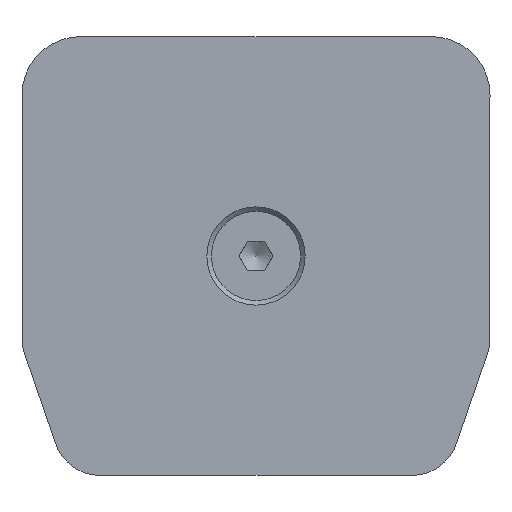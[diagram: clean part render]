
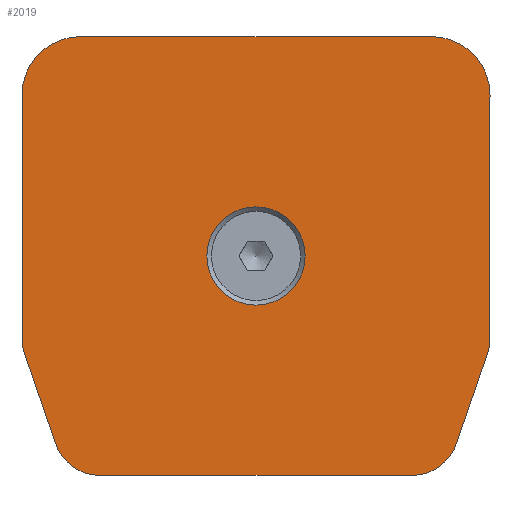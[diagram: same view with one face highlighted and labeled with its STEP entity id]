
A CAD part, top view. The second image highlights one B-rep face of the part: STEP entity #2019.
In plain terms, the highlighted planar face has unit normal (0, 0, 1).
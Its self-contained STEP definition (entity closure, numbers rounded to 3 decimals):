
#65=FACE_BOUND('',#390,.T.);
#133=CIRCLE('',#2162,8.4);
#135=CIRCLE('',#2165,10.);
#137=CIRCLE('',#2169,8.);
#139=CIRCLE('',#2173,8.);
#141=CIRCLE('',#2177,8.);
#143=CIRCLE('',#2181,8.);
#145=CIRCLE('',#2185,10.);
#269=FACE_OUTER_BOUND('',#389,.T.);
#389=EDGE_LOOP('',(#1727,#1728,#1729,#1730,#1731,#1732,#1733,#1734,#1735,
#1736,#1737,#1738));
#390=EDGE_LOOP('',(#1739));
#595=LINE('',#3215,#799);
#599=LINE('',#3227,#803);
#603=LINE('',#3239,#807);
#607=LINE('',#3251,#811);
#611=LINE('',#3263,#815);
#615=LINE('',#3274,#819);
#799=VECTOR('',#2629,41.591);
#803=VECTOR('',#2641,16.159);
#807=VECTOR('',#2653,53.391);
#811=VECTOR('',#2665,16.159);
#815=VECTOR('',#2677,41.591);
#819=VECTOR('',#2689,60.);
#961=VERTEX_POINT('',#3200);
#963=VERTEX_POINT('',#3205);
#964=VERTEX_POINT('',#3206);
#967=VERTEX_POINT('',#3214);
#969=VERTEX_POINT('',#3220);
#971=VERTEX_POINT('',#3226);
#973=VERTEX_POINT('',#3232);
#975=VERTEX_POINT('',#3238);
#977=VERTEX_POINT('',#3244);
#979=VERTEX_POINT('',#3250);
#981=VERTEX_POINT('',#3256);
#983=VERTEX_POINT('',#3262);
#985=VERTEX_POINT('',#3268);
#1212=EDGE_CURVE('',#961,#961,#133,.T.);
#1214=EDGE_CURVE('',#963,#964,#135,.T.);
#1218=EDGE_CURVE('',#964,#967,#595,.T.);
#1221=EDGE_CURVE('',#967,#969,#137,.T.);
#1224=EDGE_CURVE('',#969,#971,#599,.T.);
#1227=EDGE_CURVE('',#971,#973,#139,.T.);
#1230=EDGE_CURVE('',#973,#975,#603,.T.);
#1233=EDGE_CURVE('',#975,#977,#141,.T.);
#1236=EDGE_CURVE('',#977,#979,#607,.T.);
#1239=EDGE_CURVE('',#979,#981,#143,.T.);
#1242=EDGE_CURVE('',#981,#983,#611,.T.);
#1245=EDGE_CURVE('',#983,#985,#145,.T.);
#1248=EDGE_CURVE('',#985,#963,#615,.T.);
#1727=ORIENTED_EDGE('',*,*,#1214,.F.);
#1728=ORIENTED_EDGE('',*,*,#1248,.F.);
#1729=ORIENTED_EDGE('',*,*,#1245,.F.);
#1730=ORIENTED_EDGE('',*,*,#1242,.F.);
#1731=ORIENTED_EDGE('',*,*,#1239,.F.);
#1732=ORIENTED_EDGE('',*,*,#1236,.F.);
#1733=ORIENTED_EDGE('',*,*,#1233,.F.);
#1734=ORIENTED_EDGE('',*,*,#1230,.F.);
#1735=ORIENTED_EDGE('',*,*,#1227,.F.);
#1736=ORIENTED_EDGE('',*,*,#1224,.F.);
#1737=ORIENTED_EDGE('',*,*,#1221,.F.);
#1738=ORIENTED_EDGE('',*,*,#1218,.F.);
#1739=ORIENTED_EDGE('',*,*,#1212,.T.);
#1913=PLANE('',#2188);
#2019=ADVANCED_FACE('',(#269,#65),#1913,.T.);
#2162=AXIS2_PLACEMENT_3D('',#3201,#2615,#2616);
#2165=AXIS2_PLACEMENT_3D('',#3207,#2621,#2622);
#2169=AXIS2_PLACEMENT_3D('',#3221,#2634,#2635);
#2173=AXIS2_PLACEMENT_3D('',#3233,#2646,#2647);
#2177=AXIS2_PLACEMENT_3D('',#3245,#2658,#2659);
#2181=AXIS2_PLACEMENT_3D('',#3257,#2670,#2671);
#2185=AXIS2_PLACEMENT_3D('',#3269,#2682,#2683);
#2188=AXIS2_PLACEMENT_3D('',#3276,#2691,#2692);
#2615=DIRECTION('center_axis',(0.,0.,-1.));
#2616=DIRECTION('ref_axis',(1.,0.,0.));
#2621=DIRECTION('center_axis',(0.,0.,-1.));
#2622=DIRECTION('ref_axis',(-1.,0.,0.));
#2629=DIRECTION('',(0.,-1.,0.));
#2634=DIRECTION('center_axis',(0.,0.,-1.));
#2635=DIRECTION('ref_axis',(-0.94,0.342,0.));
#2641=DIRECTION('',(-0.325,-0.946,0.));
#2646=DIRECTION('center_axis',(0.,0.,-1.));
#2647=DIRECTION('ref_axis',(0.,1.,0.));
#2653=DIRECTION('',(-1.,0.,0.));
#2658=DIRECTION('center_axis',(0.,0.,-1.));
#2659=DIRECTION('ref_axis',(0.946,0.325,0.));
#2665=DIRECTION('',(-0.325,0.946,0.));
#2670=DIRECTION('center_axis',(0.,0.,-1.));
#2671=DIRECTION('ref_axis',(1.,0.,0.));
#2677=DIRECTION('',(0.,1.,0.));
#2682=DIRECTION('center_axis',(0.,0.,-1.));
#2683=DIRECTION('ref_axis',(0.,-1.,0.));
#2689=DIRECTION('',(1.,0.,0.));
#2691=DIRECTION('center_axis',(0.,0.,1.));
#2692=DIRECTION('ref_axis',(1.,0.,0.));
#3200=CARTESIAN_POINT('',(8.035,-7.245,4.));
#3201=CARTESIAN_POINT('Origin',(-0.365,-7.245,4.));
#3205=CARTESIAN_POINT('',(29.635,30.255,4.));
#3206=CARTESIAN_POINT('',(39.635,20.255,4.));
#3207=CARTESIAN_POINT('Origin',(29.635,20.255,4.));
#3214=CARTESIAN_POINT('',(39.635,-21.336,4.));
#3215=CARTESIAN_POINT('',(39.635,20.255,4.));
#3220=CARTESIAN_POINT('',(39.153,-24.069,4.));
#3221=CARTESIAN_POINT('Origin',(31.635,-21.336,4.));
#3226=CARTESIAN_POINT('',(33.895,-39.348,4.));
#3227=CARTESIAN_POINT('',(39.153,-24.069,4.));
#3232=CARTESIAN_POINT('',(26.33,-44.745,4.));
#3233=CARTESIAN_POINT('Origin',(26.33,-36.745,4.));
#3238=CARTESIAN_POINT('',(-27.061,-44.745,4.));
#3239=CARTESIAN_POINT('',(26.33,-44.745,4.));
#3244=CARTESIAN_POINT('',(-34.625,-39.348,4.));
#3245=CARTESIAN_POINT('Origin',(-27.061,-36.745,4.));
#3250=CARTESIAN_POINT('',(-39.884,-24.069,4.));
#3251=CARTESIAN_POINT('',(-34.625,-39.348,4.));
#3256=CARTESIAN_POINT('',(-40.365,-21.336,4.));
#3257=CARTESIAN_POINT('Origin',(-32.365,-21.336,4.));
#3262=CARTESIAN_POINT('',(-40.365,20.255,4.));
#3263=CARTESIAN_POINT('',(-40.365,-21.336,4.));
#3268=CARTESIAN_POINT('',(-30.365,30.255,4.));
#3269=CARTESIAN_POINT('Origin',(-30.365,20.255,4.));
#3274=CARTESIAN_POINT('',(-30.365,30.255,4.));
#3276=CARTESIAN_POINT('Origin',(-0.365,-6.251,4.));
